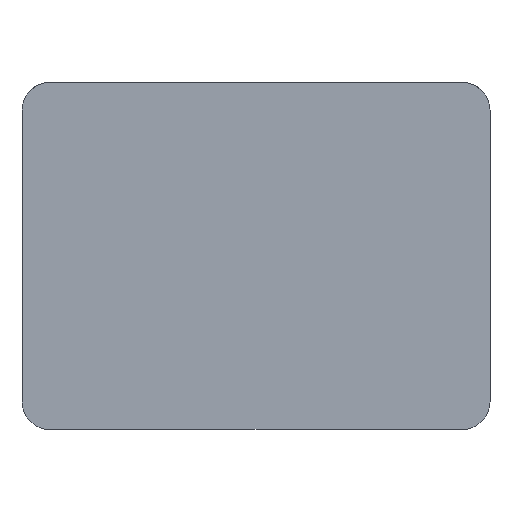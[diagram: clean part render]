
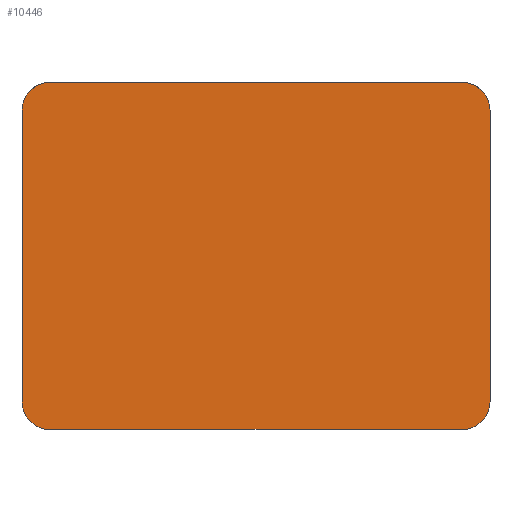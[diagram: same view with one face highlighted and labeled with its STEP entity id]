
A CAD part, left-side view. The second image highlights one B-rep face of the part: STEP entity #10446.
In plain terms, the highlighted planar face has unit normal (-1, 0, 0).
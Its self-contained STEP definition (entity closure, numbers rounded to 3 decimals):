
#1309=PLANE('',#10770);
#1853=FACE_OUTER_BOUND('',#2464,.T.);
#2464=EDGE_LOOP('',(#9656,#9657,#9658,#9659,#9660,#9661,#9662,#9663));
#3256=LINE('',#20911,#4044);
#3272=LINE('',#21036,#4060);
#3275=LINE('',#21041,#4063);
#3276=LINE('',#21045,#4064);
#4044=VECTOR('',#11995,10.);
#4060=VECTOR('',#12095,10.);
#4063=VECTOR('',#12100,10.);
#4064=VECTOR('',#12103,10.);
#4125=CIRCLE('',#10744,5.);
#4136=CIRCLE('',#10760,5.);
#4142=CIRCLE('',#10771,5.);
#4143=CIRCLE('',#10772,5.);
#5140=VERTEX_POINT('',#20905);
#5142=VERTEX_POINT('',#20909);
#5147=VERTEX_POINT('',#20943);
#5148=VERTEX_POINT('',#20945);
#5162=VERTEX_POINT('',#21003);
#5169=VERTEX_POINT('',#21035);
#5171=VERTEX_POINT('',#21042);
#5172=VERTEX_POINT('',#21044);
#6642=EDGE_CURVE('',#5142,#5140,#3256,.T.);
#6649=EDGE_CURVE('',#5147,#5148,#4125,.T.);
#6670=EDGE_CURVE('',#5140,#5162,#4136,.T.);
#6682=EDGE_CURVE('',#5148,#5169,#3272,.T.);
#6685=EDGE_CURVE('',#5162,#5147,#3275,.T.);
#6686=EDGE_CURVE('',#5171,#5142,#4142,.T.);
#6687=EDGE_CURVE('',#5172,#5171,#3276,.T.);
#6688=EDGE_CURVE('',#5169,#5172,#4143,.T.);
#9656=ORIENTED_EDGE('',*,*,#6649,.F.);
#9657=ORIENTED_EDGE('',*,*,#6685,.F.);
#9658=ORIENTED_EDGE('',*,*,#6670,.F.);
#9659=ORIENTED_EDGE('',*,*,#6642,.F.);
#9660=ORIENTED_EDGE('',*,*,#6686,.F.);
#9661=ORIENTED_EDGE('',*,*,#6687,.F.);
#9662=ORIENTED_EDGE('',*,*,#6688,.F.);
#9663=ORIENTED_EDGE('',*,*,#6682,.F.);
#10446=ADVANCED_FACE('',(#1853),#1309,.F.);
#10744=AXIS2_PLACEMENT_3D('',#20946,#12030,#12031);
#10760=AXIS2_PLACEMENT_3D('',#21004,#12070,#12071);
#10770=AXIS2_PLACEMENT_3D('',#21040,#12098,#12099);
#10771=AXIS2_PLACEMENT_3D('',#21043,#12101,#12102);
#10772=AXIS2_PLACEMENT_3D('',#21046,#12104,#12105);
#11995=DIRECTION('',(0.,0.,-1.));
#12030=DIRECTION('center_axis',(1.,0.,0.));
#12031=DIRECTION('ref_axis',(0.,0.707,-0.707));
#12070=DIRECTION('center_axis',(1.,0.,0.));
#12071=DIRECTION('ref_axis',(0.,-0.707,-0.707));
#12095=DIRECTION('',(0.,0.,1.));
#12098=DIRECTION('center_axis',(1.,0.,0.));
#12099=DIRECTION('ref_axis',(0.,1.,0.));
#12100=DIRECTION('',(0.,1.,0.));
#12101=DIRECTION('center_axis',(1.,0.,0.));
#12102=DIRECTION('ref_axis',(0.,-0.707,0.707));
#12103=DIRECTION('',(0.,-1.,0.));
#12104=DIRECTION('center_axis',(1.,0.,0.));
#12105=DIRECTION('ref_axis',(0.,0.707,0.707));
#20905=CARTESIAN_POINT('',(0.,0.,5.));
#20909=CARTESIAN_POINT('',(0.,0.,58.));
#20911=CARTESIAN_POINT('',(0.,0.,63.));
#20943=CARTESIAN_POINT('',(0.,80.,0.));
#20945=CARTESIAN_POINT('',(0.,85.,5.));
#20946=CARTESIAN_POINT('Origin',(0.,80.,5.));
#21003=CARTESIAN_POINT('',(0.,5.,0.));
#21004=CARTESIAN_POINT('Origin',(0.,5.,5.));
#21035=CARTESIAN_POINT('',(0.,85.,58.));
#21036=CARTESIAN_POINT('',(0.,85.,0.));
#21040=CARTESIAN_POINT('Origin',(0.,42.5,31.5));
#21041=CARTESIAN_POINT('',(0.,0.,0.));
#21042=CARTESIAN_POINT('',(0.,5.,63.));
#21043=CARTESIAN_POINT('Origin',(0.,5.,58.));
#21044=CARTESIAN_POINT('',(0.,80.,63.));
#21045=CARTESIAN_POINT('',(0.,85.,63.));
#21046=CARTESIAN_POINT('Origin',(0.,80.,58.));
